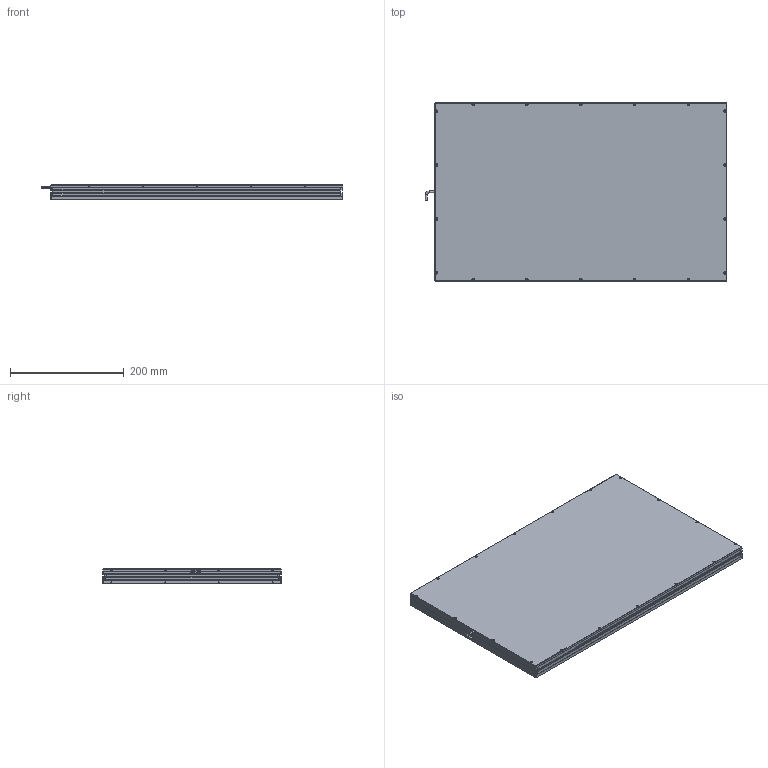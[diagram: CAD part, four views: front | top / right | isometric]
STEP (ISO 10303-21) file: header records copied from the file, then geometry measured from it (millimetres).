
FILE_DESCRIPTION (( 'STEP AP203' ), '1' );
FILE_NAME ('CRT-2PFLD500300-¼òÒ×3DÍ¼.STEP', '2021-11-27T05:49:19', ( 'Admin' ), ( '' ), 'SwSTEP 2.0', 'SolidWorks 2018', '' );
FILE_SCHEMA (( 'CONFIG_CONTROL_DESIGN' ));
Length unit declared in the file: millimetre
Products named in the file (1): CRT-2PFLD500300-潠眢3D芞
Bounding box: 531.25 x 314 x 25.5 mm (x, y, z)
Surface area: 548729.9 mm2 (no closed solid volume)
Topology: 0 solids, 7 shells, 234 faces, 783 edges, 542 vertices
Faces by surface type: cylinder 99, plane 88, cone 45, bspline 2
Entity records: 8766 total; most frequent: CARTESIAN_POINT 1694, DIRECTION 1539, ORIENTED_EDGE 1272, EDGE_CURVE 783, AXIS2_PLACEMENT_3D 543, VERTEX_POINT 542, LINE 453, VECTOR 453
